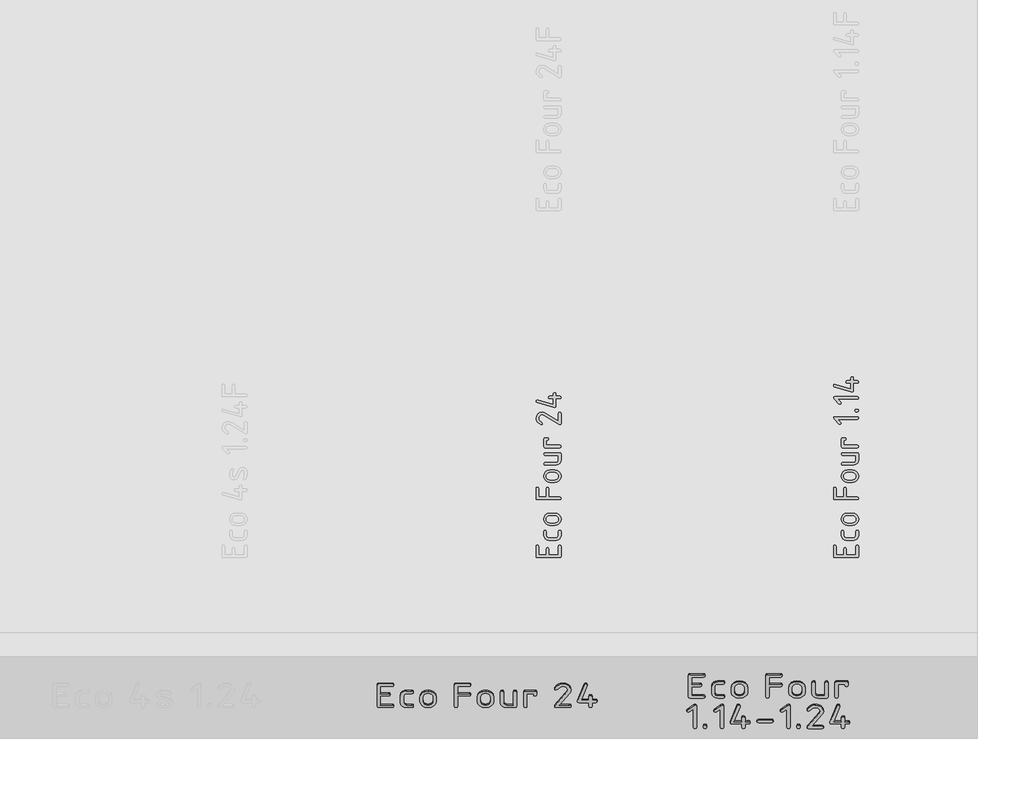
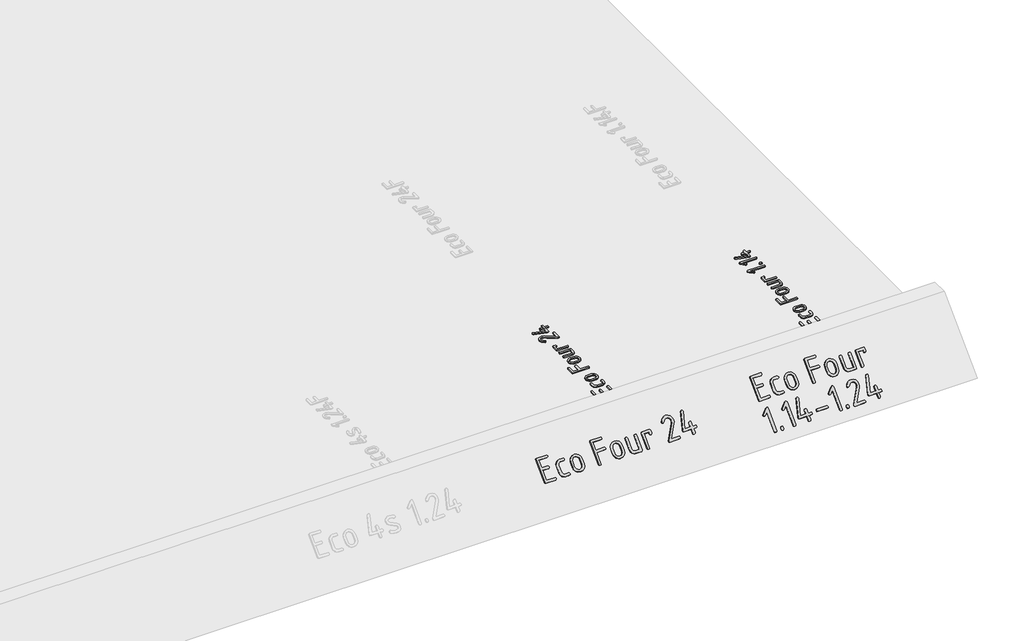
# One storey, part 7 of 37: 4 proxies.
"""IFC4 building model written with IfcOpenShell, lengths in millimetres."""

from ifc_helpers import new_model, si_unit, frame, origin, origin_with_axes, place, context, project, spatial, polyline, outline, extrude, element, save

model = new_model("IFC4")

# Units and contexts
model_context = context("Model", 3, world=origin())
ifc_project = project(units=[si_unit("LENGTHUNIT", "METRE", prefix="MILLI")], contexts=[model_context])

# Site, building, storey
site = spatial("IfcSite", under=ifc_project)
building = spatial("IfcBuilding", under=site)
storey = spatial("IfcBuildingStorey", under=building, Name="01_Стартовый вид_Площадка", Elevation=0.0)

# Proxies
placement = place(None, origin())
element("IfcBuildingElementProxy", 1, Name="200мм", ObjectType="200мм", at=placement, inside=storey, context=model_context, shape_type="SweptSolid", body=[
    extrude(outline(polyline([(7.9720216, 0.0), (179.416636, -58.0553192), (185.7484838, -62.8989575), (185.6722013, -70.971688), (159.9419745, -146.956264), (155.1111501, -153.2502709), (147.0426909, -153.1613748), (140.5802352, -148.3297495), (140.5674213, -140.3955688), (163.0173005, -74.0982694), (104.8936407, -54.4161836), (88.8506905, -101.7930208), (84.03268, -108.0491868), (75.968492, -107.9476769), (69.501765, -103.1286653), (69.4761372, -95.2323255), (85.5190874, -47.8554883), (11.2499666, -22.7061564), (-11.1999125, -89.0034557), (-16.0307369, -95.2974626), (-24.0991962, -95.2085664), (-30.5616518, -90.3769412), (-30.5744657, -82.4427605), (-4.8442389, -6.4581844), (0.0, 0.0), (7.9720216, 0.0)])), frame((21603.9208495, -17981.5780601, 150.0960147), z_axis=(0.0, -0.7071067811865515, 0.7071067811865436), x_axis=(-0.32073452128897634, 0.6697497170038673, 0.6697497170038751)), (0.0, 0.0, 1.0), 10.0),
    extrude(outline(polyline([(15.1508781, 0.0), (69.918334, 22.8458531), (80.4980469, 33.6657617), (80.467285, 48.8903842), (68.9008028, 76.6182523), (68.3843818, 84.4977287), (74.505091, 89.7492381), (82.5432932, 90.4040175), (87.7793513, 84.493304), (99.3458335, 56.7654358), (102.6619405, 41.3096075), (99.6902547, 25.914741), (91.2197, 12.7713241), (78.0392002, 4.0698443), (22.7801153, -18.9810883), (7.3232334, -22.2254877), (-7.9764678, -18.9976632), (-21.0073016, -10.2781335), (-29.6575818, 2.9525826), (-41.224064, 30.6804508), (-41.7404849, 38.5599271), (-35.6197759, 43.8114365), (-27.5815735, 44.4662159), (-22.3455154, 38.5555025), (-10.7790332, 10.8276343), (0.0, 0.0), (15.1508781, 0.0)])), frame((21767.4294396, -17903.0711746, 228.6029002), z_axis=(0.0, -0.7071067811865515, 0.7071067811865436), x_axis=(-0.384989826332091, -0.6526035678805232, -0.6526035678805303)), (0.0, 0.0, 1.0), 10.0),
    extrude(outline(polyline([(19.5277268, 0.0), (58.788553, -7.3971647), (76.977393, -14.5033742), (90.8173496, -28.1486772), (98.6171829, -45.8732873), (98.6856532, -65.2174178), (91.5847544, -83.4140341), (77.9948347, -97.0679287), (60.1996699, -104.6308688), (40.4830361, -104.5546222), (1.22221, -97.1574575), (-16.96663, -90.051248), (-30.8065866, -76.405945), (-38.6064199, -58.6813348), (-38.6748902, -39.3372043), (-31.5717163, -21.3442893), (-17.856617, -7.6733254), (0.0, 0.0), (19.5277268, 0.0)]), holes=[polyline([(5.5853838, -77.1644064), (44.8985577, -84.5714339), (56.5989581, -84.61445), (67.3060997, -80.1473936), (75.5187711, -72.161262), (79.7357612, -61.6470529), (79.6340604, -50.3191558), (74.8906592, -39.89196), (66.5432132, -31.8348128), (55.6293779, -27.6170622), (16.316204, -20.2100346), (4.5148066, -20.1276623), (-6.1812393, -24.5358276), (-14.3509513, -32.5097259), (-18.5733473, -43.1245526), (-18.4716465, -54.4524498), (-13.7282453, -64.8796457), (-5.3677123, -72.9392585), (5.5853838, -77.1644064)])]), frame((21864.0790237, -17961.6335257, 170.0405492), z_axis=(0.0, -0.7071067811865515, 0.7071067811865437), x_axis=(-0.18515314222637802, 0.6948806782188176, 0.6948806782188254)), (0.0, 0.0, 1.0), 10.0),
    extrude(outline(polyline([(7.9720216, 0.0), (179.416636, -58.0553192), (185.7484838, -62.8989575), (185.6722013, -70.971688), (159.9419745, -146.956264), (155.1111501, -153.2502709), (147.0426909, -153.1613748), (140.5802352, -148.3297495), (140.5674213, -140.3955688), (163.0173005, -74.0982693), (104.8936407, -54.4161835), (82.4437616, -120.7134829), (77.6129371, -127.0074898), (69.5444779, -126.9185936), (63.0820222, -122.0869683), (63.0692083, -114.1527876), (85.5190874, -47.8554882), (1.2599627, -19.3232978), (-4.9583623, -14.5181011), (-4.8442389, -6.4581844), (0.0, 0.0), (7.9720216, 0.0)])), frame((22070.9817122, -17981.5780601, 150.0960147), z_axis=(0.0, -0.7071067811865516, 0.7071067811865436), x_axis=(-0.3207345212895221, 0.6697497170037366, 0.6697497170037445)), (0.0, 0.0, 1.0), 10.0),
    extrude(outline(polyline([(19.5277268, -1e-07), (58.7885529, -7.3971648), (76.977393, -14.5033742), (90.8173496, -28.1486773), (98.6171829, -45.8732873), (98.6856532, -65.2174179), (91.5847543, -83.4140342), (77.9948347, -97.0679287), (60.1996699, -104.6308689), (40.4830361, -104.5546223), (1.22221, -97.1574576), (-16.96663, -90.0512481), (-30.8065866, -76.405945), (-38.6064199, -58.6813349), (-38.6748902, -39.3372044), (-31.5717163, -21.3442893), (-17.8566171, -7.6733255), (0.0, 0.0), (19.5277268, -1e-07)]), holes=[polyline([(5.5853838, -77.1644064), (44.8985577, -84.5714339), (56.5989581, -84.6144501), (67.3060997, -80.1473937), (75.5187711, -72.1612621), (79.7357612, -61.647053), (79.6340604, -50.3191558), (74.8906592, -39.8919601), (66.5432132, -31.8348129), (55.6293779, -27.6170623), (16.316204, -20.2100347), (4.5148066, -20.1276624), (-6.1812393, -24.5358276), (-14.3509513, -32.5097259), (-18.5733473, -43.1245527), (-18.4716465, -54.4524499), (-13.7282453, -64.8796458), (-5.3677123, -72.9392586), (5.5853838, -77.1644064)])]), frame((22211.8177681, -17961.6335257, 170.0405492), z_axis=(0.0, -0.7071067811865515, 0.7071067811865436), x_axis=(-0.1851531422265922, 0.694880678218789, 0.6948806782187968)), (0.0, 0.0, 1.0), 10.0),
    extrude(outline(polyline([(7.8963813, 1e-07), (121.2937941, -38.8098097), (127.5601634, -43.5725011), (127.5101015, -51.4095223), (111.5032111, -98.1796552), (103.8057301, -111.7461767), (91.4765408, -120.9968587), (76.511249, -124.9537748), (60.9054607, -122.6389988), (-24.1173995, -93.5402659), (-30.3578956, -88.7019762), (-30.2302141, -80.6381603), (-25.39024, -74.1871075), (-17.4938586, -74.1871074), (67.1762096, -103.1650987), (82.2515298, -102.3002328), (92.2362967, -91.3041201), (104.7416798, -54.7649537), (1.2728405, -19.3531584), (-4.9676556, -14.5148688), (-4.8399741, -6.4510528), (0.0, 0.0), (7.8963813, 1e-07)])), frame((22444.289482, -17886.281229, 245.3928458), z_axis=(0.0, -0.7071067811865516, 0.7071067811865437), x_axis=(0.3238068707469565, -0.6690101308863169, -0.6690101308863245)), (0.0, 0.0, 1.0), 10.0),
    extrude(outline(polyline([(119.8548062, 0.0), (127.3257557, -2.5569025), (129.8160723, -10.2276101), (129.8160723, -70.474626), (127.2591698, -77.9455756), (119.5884622, -80.4358922), (99.3463171, -80.4358922), (91.835416, -77.9455756), (89.3317822, -70.474626), (91.835416, -62.9637249), (99.3463171, -60.4600911), (109.3608521, -60.4600911), (109.3608521, -20.4552202), (0.0, -20.4552202), (-7.4709496, -17.8983177), (-9.9612661, -10.2276101), (-7.4709496, -2.5569025), (0.0, 0.0), (119.8548062, 0.0)])), frame((22487.7568251, -17976.3141343, 155.3599405), z_axis=(0.0, -0.7071067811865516, 0.7071067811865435), x_axis=(0.0, 0.7071067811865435, 0.7071067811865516)), (0.0, 0.0, 1.0), 10.0),
    extrude(outline(polyline([(156.7700866, 0.0), (133.704695, 23.0121228), (130.8281796, 29.9903359), (133.3318134, 37.5012371), (140.8427146, 40.0048709), (147.8209277, 37.0750867), (187.1333042, -2.0242145), (191.0751956, -10.2276101), (188.5582446, -17.8983177), (181.0073918, -20.4552203), (0.0, -20.4552203), (-7.5508528, -17.8983177), (-10.0678037, -10.2276101), (-7.5508528, -2.5569025), (0.0, 0.0), (156.7700866, 0.0)])), frame((21630.3421757, -18161.052232, -29.3781572), z_axis=(0.0, -0.7071067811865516, 0.7071067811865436), x_axis=(0.0, 0.7071067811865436, 0.7071067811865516)), (0.0, 0.0, 1.0), 10.0),
    extrude(outline(polyline([(10.2276102, 0.0), (17.8983178, -2.5569025), (20.4552203, -10.2276101), (17.8983178, -17.8983177), (10.2276102, -20.4552203), (0.0, -20.4552203), (-7.6707075, -17.8983177), (-10.2276101, -10.2276101), (-7.6707075, -2.5569025), (0.0, 0.0), (10.2276102, 0.0)])), frame((21691.7078365, -18160.9392318, -29.265157), z_axis=(0.0, -0.7071067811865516, 0.7071067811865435), x_axis=(0.0, 0.7071067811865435, 0.7071067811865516)), (0.0, 0.0, 1.0), 10.0),
    extrude(outline(polyline([(156.7700866, 0.0), (133.704695, 23.0121228), (130.8281796, 29.9903359), (133.3318134, 37.5012371), (140.8427146, 40.0048709), (147.8209277, 37.0750867), (187.1333042, -2.0242145), (191.0751956, -10.2276102), (188.5582446, -17.8983177), (181.0073918, -20.4552203), (0.0, -20.4552203), (-7.5508528, -17.8983177), (-10.0678037, -10.2276102), (-7.5508528, -2.5569026), (0.0, 0.0), (156.7700866, 0.0)])), frame((21793.9839378, -18161.052232, -29.3781572), z_axis=(0.0, -0.7071067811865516, 0.7071067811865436), x_axis=(0.0, 0.7071067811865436, 0.7071067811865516)), (0.0, 0.0, 1.0), 10.0),
    extrude(outline(polyline([(7.917185, 0.0), (10.3934109, -1.1623101), (130.7514683, -83.4504991), (134.8406101, -88.4913877), (134.6089903, -94.955685), (129.8713131, -101.2936443), (121.9920295, -101.306278), (119.4147331, -99.941827), (10.4776363, -25.3349921), (-4.3291842, -69.7554536), (24.1726819, -79.2560756), (30.4516834, -84.044288), (30.3885144, -92.1088674), (25.600302, -98.5984324), (17.7041733, -98.6616014), (-10.7976928, -89.1609793), (-17.1314408, -108.1622234), (-21.9196532, -114.4412249), (-29.9842326, -114.3780559), (-36.4737975, -109.5898434), (-36.5369666, -101.6937148), (-30.2032185, -82.6924708), (-59.3115073, -72.9897078), (-65.7800159, -68.1383264), (-65.7800159, -60.0526906), (-60.9286344, -53.584182), (-52.8429988, -53.5841821), (-23.7347099, -63.286945), (-4.750311, -6.333748), (0.0, 0.0), (7.917185, 0.0)])), frame((21855.9888242, -18137.472858, -5.7987831), z_axis=(0.0, -0.7071067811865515, 0.7071067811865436), x_axis=(-0.3162277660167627, 0.6708203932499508, 0.6708203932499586)), (0.0, 0.0, 1.0), 10.0),
    extrude(outline(polyline([(7.934191, 0.0), (83.6754056, -25.7842432), (89.9616024, -30.6252263), (89.8596757, -38.6935314), (85.0176197, -45.1481756), (77.0834286, -45.1481755), (1.3422141, -19.3639323), (-4.9439827, -14.5229492), (-4.8420559, -6.454644), (0.0, 0.0), (7.934191, 0.0)])), frame((22112.637916, -18130.2031787, 1.4708961), z_axis=(0.0, -0.7071067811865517, 0.7071067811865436), x_axis=(-0.9466499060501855, -0.227874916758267, -0.22787491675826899)), (0.0, 0.0, 1.0), 10.0),
    extrude(outline(polyline([(156.7700866, 0.0), (133.704695, 23.0121228), (130.8281796, 29.9903359), (133.3318134, 37.5012371), (140.8427146, 40.0048708), (147.8209277, 37.0750867), (187.1333042, -2.0242145), (191.0751956, -10.2276102), (188.5582446, -17.8983178), (181.0073918, -20.4552203), (0.0, -20.4552203), (-7.5508528, -17.8983178), (-10.0678037, -10.2276102), (-7.5508528, -2.5569026), (0.0, 0.0), (156.7700866, 0.0)])), frame((22196.2699363, -18161.052232, -29.3781572), z_axis=(0.0, -0.7071067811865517, 0.7071067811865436), x_axis=(0.0, 0.7071067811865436, 0.7071067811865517)), (0.0, 0.0, 1.0), 10.0),
    extrude(outline(polyline([(10.2276102, 0.0), (17.8983178, -2.5569026), (20.4552203, -10.2276102), (17.8983178, -17.8983178), (10.2276102, -20.4552203), (0.0, -20.4552203), (-7.6707075, -17.8983178), (-10.2276101, -10.2276102), (-7.6707075, -2.5569026), (0.0, 0.0), (10.2276102, 0.0)])), frame((22257.6355971, -18160.9392318, -29.265157), z_axis=(0.0, -0.7071067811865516, 0.7071067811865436), x_axis=(0.0, 0.7071067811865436, 0.7071067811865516)), (0.0, 0.0, 1.0), 10.0),
    extrude(outline(polyline([(14.6692355, -1e-07), (33.1062034, -6.6022305), (47.3681923, -19.9776427), (55.6930957, -37.6934159), (56.3188068, -57.3167297), (51.8407371, -71.1866426), (42.8424616, -84.4831553), (-35.1387131, -175.0883818), (26.2241519, -184.7023202), (33.2487616, -188.3909847), (34.5349086, -196.3567718), (30.8741353, -203.5475071), (23.0579835, -204.9110167), (-55.9874908, -192.526681), (-63.0203458, -188.8906433), (-64.3312285, -181.0827367), (-61.7484404, -175.6102614), (28.9539759, -70.2294251), (36.4734082, -54.5849108), (36.0907364, -42.8313549), (31.0839534, -32.2000358), (22.5293125, -24.1671007), (11.5030671, -20.2086965), (-5.5868318, -23.8935588), (-23.3858748, -40.1921121), (-32.6617347, -43.6454248), (-39.6945896, -40.0093871), (-41.0054723, -32.2014805), (-39.423307, -28.2976301), (-27.0462712, -14.148815), (-13.9051688, -4.7162717), (0.0, 0.0), (14.6692355, -1e-07)])), frame((22354.0488008, -18027.5472099, 104.1268649), z_axis=(0.0, -0.7071067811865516, 0.7071067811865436), x_axis=(0.9879481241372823, 0.1094497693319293, 0.10944976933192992)), (0.0, 0.0, 1.0), 10.0),
    extrude(outline(polyline([(7.917185, 0.0), (10.3934109, -1.1623101), (130.7514683, -83.4504991), (134.8406101, -88.4913877), (134.6089903, -94.955685), (129.8713131, -101.2936443), (121.9920295, -101.306278), (119.4147331, -99.941827), (10.4776363, -25.3349921), (-4.3291842, -69.7554535), (24.1726819, -79.2560755), (30.4516834, -84.044288), (30.3885144, -92.1088674), (25.600302, -98.5984324), (17.7041733, -98.6616014), (-10.7976928, -89.1609793), (-17.1314408, -108.1622233), (-21.9196532, -114.4412249), (-29.9842326, -114.3780558), (-36.4737975, -109.5898434), (-36.5369665, -101.6937147), (-30.2032185, -82.6924708), (-59.3115073, -72.9897078), (-65.7800159, -68.1383264), (-65.7800159, -60.0526906), (-60.9286344, -53.584182), (-52.8429987, -53.584182), (-23.7347099, -63.2869449), (-4.750311, -6.333748), (0.0, 0.0), (7.917185, 0.0)])), frame((22459.417822, -18137.472858, -5.7987831), z_axis=(0.0, -0.7071067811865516, 0.7071067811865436), x_axis=(-0.31622776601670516, 0.6708203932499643, 0.6708203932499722)), (0.0, 0.0, 1.0), 10.0),
])
element("IfcBuildingElementProxy", 2, Name="150 мм", ObjectType="150 мм", at=placement, inside=storey, context=model_context, shape_type="SweptSolid", body=[
    extrude(outline(polyline([(22622.6374214, -17138.8871108), (22486.8818775, -17138.8871108), (22481.2187379, -17136.9694339), (22479.3310247, -17131.2164032), (22479.3310247, -17071.0492905), (22481.2487016, -17065.4161146), (22487.0017323, -17063.5383893), (22492.754763, -17065.4161146), (22494.6724399, -17071.0492905), (22494.6724399, -17123.5456956), (22540.6966855, -17123.5456956), (22540.6966855, -17086.0311412), (22542.6143624, -17080.427929), (22548.3673931, -17078.5601916), (22554.1204238, -17080.427929), (22556.0381007, -17086.0311412), (22556.0381007, -17123.5456956), (22614.846859, -17123.5456956), (22614.846859, -17071.0492905), (22616.7645359, -17065.4161146), (22622.5175666, -17063.5383893), (22628.2705973, -17065.4161146), (22630.1882742, -17071.0492905), (22630.1882742, -17131.2164032), (22628.300561, -17136.9694339), (22622.6374214, -17138.8871108)])), origin_with_axes(), (0.0, 0.0, 1.0), 10.0),
    extrude(outline(polyline([(22555.5187299, -17018.7126917), (22600.0248146, -17018.7126917), (22610.4721585, -17014.2780639), (22614.846859, -17003.730841), (22614.846859, -16981.1981374), (22616.7645359, -16975.5949252), (22622.5175666, -16973.7271878), (22628.2705973, -16975.5949252), (22630.1882742, -16981.1981374), (22630.1882742, -17003.730841), (22628.0208998, -17015.3867209), (22621.5187765, -17025.1848513), (22611.8604767, -17031.836793), (22600.2245726, -17034.0541069), (22555.3189719, -17034.0541069), (22543.6830678, -17031.836793), (22534.024768, -17025.1848513), (22527.5226447, -17015.3867209), (22525.3552703, -17003.730841), (22525.3552703, -16981.1981374), (22527.2729472, -16975.5949252), (22533.0259779, -16973.7271878), (22538.7790086, -16975.5949252), (22540.6966855, -16981.1981374), (22540.6966855, -17003.730841), (22545.0314343, -17014.3379913), (22555.5187299, -17018.7126917)])), origin_with_axes(), (0.0, 0.0, 1.0), 10.0),
    extrude(outline(polyline([(22592.753623, -16944.5625183), (22562.7899215, -16944.5625183), (22548.3973568, -16941.8508033), (22536.3020093, -16933.7156583), (22528.0919551, -16921.7351716), (22525.3552703, -16907.4874315), (22528.0619914, -16893.089873), (22536.1821545, -16881.13935), (22548.2475383, -16873.0940961), (22562.7899215, -16870.4123448), (22592.753623, -16870.4123448), (22607.1461877, -16873.1240598), (22619.2415352, -16881.2592048), (22627.4515894, -16893.2396915), (22630.1882742, -16907.4874315), (22627.4515894, -16921.7351716), (22619.2415352, -16933.7156583), (22607.1461877, -16941.8508033), (22592.753623, -16944.5625183)]), holes=[polyline([(22592.3141554, -16885.75376), (22562.3105022, -16885.75376), (22553.6809562, -16887.3468302), (22546.4097646, -16892.1260406), (22541.4657539, -16899.1525286), (22539.8177503, -16907.4874315), (22541.4657539, -16915.8223345), (22546.4097646, -16922.8488225), (22553.6809562, -16927.6280329), (22562.3105022, -16929.2211031), (22592.3141554, -16929.2211031), (22601.0236047, -16927.6430148), (22608.2947962, -16922.90875), (22613.2088433, -16915.8972438), (22614.846859, -16907.4874315), (22613.1988554, -16899.1525286), (22608.2548446, -16892.1260406), (22600.9736651, -16887.3468302), (22592.3141554, -16885.75376)])]), origin_with_axes(), (0.0, 0.0, 1.0), 10.0),
    extrude(outline(polyline([(22622.6374214, -16788.5914638), (22486.8818775, -16788.5914638), (22481.2187379, -16786.6737869), (22479.3310247, -16780.9207562), (22479.3310247, -16720.7536434), (22481.2487016, -16715.1204675), (22487.0017323, -16713.2427423), (22492.754763, -16715.1204675), (22494.6724399, -16720.7536434), (22494.6724399, -16773.2500486), (22540.6966855, -16773.2500486), (22540.6966855, -16720.7536434), (22542.6143624, -16715.1204675), (22548.3673931, -16713.2427423), (22554.1204238, -16715.1204675), (22556.0381007, -16720.7536434), (22556.0381007, -16773.2500486), (22622.7572762, -16773.2500486), (22628.3305247, -16775.1677255), (22630.1882742, -16780.9207562), (22628.300561, -16786.6737869), (22622.6374214, -16788.5914638)])), origin_with_axes(), (0.0, 0.0, 1.0), 10.0),
    extrude(outline(polyline([(22592.753623, -16683.7584599), (22562.7899215, -16683.7584599), (22548.3973568, -16681.0467449), (22536.3020093, -16672.9116), (22528.0919551, -16660.9311133), (22525.3552703, -16646.6833732), (22528.0619914, -16632.2858146), (22536.1821545, -16620.3352916), (22548.2475383, -16612.2900378), (22562.7899215, -16609.6082865), (22592.753623, -16609.6082865), (22607.1461877, -16612.3200015), (22619.2415352, -16620.4551464), (22627.4515894, -16632.4356331), (22630.1882742, -16646.6833732), (22627.4515894, -16660.9311133), (22619.2415352, -16672.9116), (22607.1461877, -16681.0467449), (22592.753623, -16683.7584599)]), holes=[polyline([(22592.3141554, -16624.9497017), (22562.3105022, -16624.9497017), (22553.6809562, -16626.5427718), (22546.4097646, -16631.3219822), (22541.4657539, -16638.3484702), (22539.8177503, -16646.6833732), (22541.4657539, -16655.0182762), (22546.4097646, -16662.0447642), (22553.6809562, -16666.8239746), (22562.3105022, -16668.4170447), (22592.3141554, -16668.4170447), (22601.0236047, -16666.8389564), (22608.2947962, -16662.1046916), (22613.2088433, -16655.0931854), (22614.846859, -16646.6833732), (22613.1988554, -16638.3484702), (22608.2548446, -16631.3219822), (22600.9736651, -16626.5427718), (22592.3141554, -16624.9497017)])]), origin_with_axes(), (0.0, 0.0, 1.0), 10.0),
    extrude(outline(polyline([(22532.8262199, -16504.7752826), (22622.7173246, -16504.7752826), (22628.3205368, -16506.6330321), (22630.1882742, -16512.2062806), (22630.1882742, -16549.2813673), (22628.0208998, -16560.7774408), (22621.5187765, -16570.3358616), (22611.8604767, -16576.7780575), (22600.2245726, -16578.9254561), (22532.8262199, -16578.9254561), (22527.2230077, -16577.0077792), (22525.3552703, -16571.2547485), (22527.2230077, -16565.5017178), (22532.8262199, -16563.5840409), (22599.9449114, -16563.5840409), (22610.4322069, -16559.3092194), (22614.846859, -16549.0816093), (22614.846859, -16520.1166978), (22532.8262199, -16520.1166978), (22527.2230077, -16518.1990209), (22525.3552703, -16512.4459902), (22527.2230077, -16506.6929595), (22532.8262199, -16504.7752826)])), origin_with_axes(), (0.0, 0.0, 1.0), 10.0),
    extrude(outline(polyline([(22532.8262199, -16474.0924522), (22527.2230077, -16472.1747753), (22525.3552703, -16466.4217446), (22525.3552703, -16421.2364827), (22527.2729472, -16415.6332705), (22533.0259779, -16413.7655331), (22548.2075867, -16413.7655331), (22553.8407626, -16415.6332705), (22555.7184879, -16421.2364827), (22553.8407626, -16426.8696586), (22548.2075867, -16428.7473839), (22540.6966855, -16428.7473839), (22540.6966855, -16458.751037), (22622.7173246, -16458.751037), (22628.3205368, -16460.6687139), (22630.1882742, -16466.4217446), (22628.3205368, -16472.1747753), (22622.7173246, -16474.0924522), (22532.8262199, -16474.0924522)])), origin_with_axes(), (0.0, 0.0, 1.0), 10.0),
    extrude(outline(polyline([(22505.0598565, -16302.7799825), (22522.3589002, -16320.0390746), (22524.5162867, -16325.2727345), (22522.6385614, -16330.9059104), (22517.0053855, -16332.7836357), (22511.7717256, -16330.5862976), (22482.2874433, -16301.2618216), (22479.3310247, -16295.1092749), (22481.2187379, -16289.3562442), (22486.8818775, -16287.4385673), (22622.6374214, -16287.4385673), (22628.300561, -16289.3562442), (22630.1882742, -16295.1092749), (22628.300561, -16300.8623056), (22622.6374214, -16302.7799825), (22505.0598565, -16302.7799825)])), origin_with_axes(), (0.0, 0.0, 1.0), 10.0),
    extrude(outline(polyline([(22614.846859, -16256.7557369), (22609.0938283, -16254.83806), (22607.1761514, -16249.0850293), (22609.0938283, -16243.3319986), (22614.846859, -16241.4143217), (22622.5175666, -16241.4143217), (22628.2705973, -16243.3319986), (22630.1882742, -16249.0850293), (22628.2705973, -16254.83806), (22622.5175666, -16256.7557369), (22614.846859, -16256.7557369)])), origin_with_axes(), (0.0, 0.0, 1.0), 10.0),
    extrude(outline(polyline([(22505.0598565, -16180.0486609), (22522.3589002, -16197.307753), (22524.5162867, -16202.5414129), (22522.6385614, -16208.1745888), (22517.0053855, -16210.0523141), (22511.7717256, -16207.854976), (22482.2874433, -16178.5305001), (22479.3310247, -16172.3779533), (22481.2187379, -16166.6249226), (22486.8818775, -16164.7072457), (22622.6374214, -16164.7072457), (22628.300561, -16166.6249226), (22630.1882742, -16172.3779533), (22628.300561, -16178.130984), (22622.6374214, -16180.0486609), (22505.0598565, -16180.0486609)])), origin_with_axes(), (0.0, 0.0, 1.0), 10.0),
    extrude(outline(polyline([(22591.9945426, -16135.4227214), (22589.9570109, -16135.1830118), (22484.8043942, -16105.1793586), (22480.6993671, -16102.5625287), (22479.3310247, -16097.9081671), (22481.1987621, -16092.2749912), (22486.8019743, -16090.3972659), (22488.9593608, -16090.7568303), (22584.1640286, -16118.0038229), (22584.1640286, -16082.8863647), (22561.631325, -16082.8863647), (22556.0281128, -16080.9686878), (22554.1603754, -16075.2156571), (22556.0281128, -16069.4626264), (22561.631325, -16067.5449495), (22584.1640286, -16067.5449495), (22584.1640286, -16052.5231471), (22586.0817055, -16046.9199349), (22591.8347362, -16045.0521975), (22597.5877669, -16046.9199349), (22599.5054438, -16052.5231471), (22599.5054438, -16067.5449495), (22622.5175666, -16067.5449495), (22628.2705973, -16069.4626264), (22630.1882742, -16075.2156571), (22628.2705973, -16080.9686878), (22622.5175666, -16082.8863647), (22599.5054438, -16082.8863647), (22599.5054438, -16127.9118202), (22597.6277185, -16133.5449961), (22591.9945426, -16135.4227214)])), origin_with_axes(), (0.0, 0.0, 1.0), 10.0),
])
element("IfcBuildingElementProxy", 3, Name="200мм", ObjectType="200мм", at=placement, inside=storey, context=model_context, shape_type="SweptSolid", body=[
    extrude(outline(polyline([(7.9720217, 0.0), (179.4166361, -58.0553191), (185.7484839, -62.8989575), (185.6722013, -70.971688), (159.9419745, -146.9562639), (155.1111501, -153.2502708), (147.0426909, -153.1613748), (140.5802352, -148.3297494), (140.5674214, -140.3955687), (163.0173005, -74.0982693), (104.8936407, -54.4161835), (88.8506906, -101.7930207), (84.03268, -108.0491867), (75.968492, -107.9476769), (69.501765, -103.1286652), (69.4761373, -95.2323254), (85.5190874, -47.8554882), (11.2499667, -22.7061563), (-11.1999125, -89.0034556), (-16.0307369, -95.2974625), (-24.0991961, -95.2085665), (-30.5616518, -90.3769411), (-30.5744656, -82.4427604), (-4.8442389, -6.4581844), (0.0, 0.0), (7.9720217, 0.0)])), frame((19719.8238672, -18038.1466026, 93.5274722), z_axis=(0.0, -0.7071067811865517, 0.7071067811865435), x_axis=(-0.3207345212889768, 0.6697497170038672, 0.6697497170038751)), (0.0, 0.0, 1.0), 10.0),
    extrude(outline(polyline([(15.150878, 0.0), (69.918334, 22.8458531), (80.4980469, 33.6657617), (80.467285, 48.8903841), (68.9008028, 76.6182523), (68.3843818, 84.4977287), (74.505091, 89.749238), (82.5432932, 90.4040175), (87.7793513, 84.493304), (99.3458335, 56.7654357), (102.6619405, 41.3096073), (99.6902548, 25.9147409), (91.2197, 12.7713241), (78.0392002, 4.0698442), (22.7801153, -18.9810884), (7.3232334, -22.2254877), (-7.9764677, -18.9976633), (-21.0073016, -10.2781337), (-29.6575818, 2.9525825), (-41.224064, 30.6804508), (-41.7404849, 38.5599271), (-35.6197758, 43.8114364), (-27.5815735, 44.4662159), (-22.3455154, 38.5555025), (-10.7790332, 10.8276342), (0.0, 0.0), (15.150878, 0.0)])), frame((19883.3324573, -17959.6397171, 172.0343577), z_axis=(0.0, -0.7071067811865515, 0.7071067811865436), x_axis=(-0.384989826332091, -0.6526035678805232, -0.6526035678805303)), (0.0, 0.0, 1.0), 10.0),
    extrude(outline(polyline([(19.5277268, 0.0), (58.788553, -7.3971647), (76.977393, -14.5033742), (90.8173496, -28.1486773), (98.6171829, -45.8732873), (98.6856532, -65.2174179), (91.5847543, -83.4140342), (77.9948347, -97.0679287), (60.1996699, -104.6308689), (40.4830361, -104.5546222), (1.22221, -97.1574575), (-16.96663, -90.0512481), (-30.8065866, -76.405945), (-38.6064199, -58.6813349), (-38.6748902, -39.3372044), (-31.5717163, -21.3442893), (-17.8566171, -7.6733255), (0.0, 0.0), (19.5277268, 0.0)]), holes=[polyline([(5.5853838, -77.1644064), (44.8985577, -84.5714339), (56.5989581, -84.6144501), (67.3060997, -80.1473936), (75.5187711, -72.1612621), (79.7357612, -61.647053), (79.6340604, -50.3191558), (74.8906592, -39.89196), (66.5432132, -31.8348129), (55.6293779, -27.6170623), (16.316204, -20.2100347), (4.5148066, -20.1276624), (-6.1812393, -24.5358276), (-14.3509513, -32.5097259), (-18.5733473, -43.1245527), (-18.4716465, -54.4524499), (-13.7282453, -64.8796457), (-5.3677123, -72.9392586), (5.5853838, -77.1644064)])]), frame((19979.9820413, -18018.2020682, 113.4720067), z_axis=(0.0, -0.7071067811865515, 0.7071067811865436), x_axis=(-0.1851531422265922, 0.694880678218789, 0.6948806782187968)), (0.0, 0.0, 1.0), 10.0),
    extrude(outline(polyline([(7.9720216, 0.0), (179.4166361, -58.0553192), (185.7484839, -62.8989575), (185.6722013, -70.971688), (159.9419745, -146.956264), (155.1111501, -153.2502709), (147.0426909, -153.1613748), (140.5802352, -148.3297495), (140.5674213, -140.3955688), (163.0173005, -74.0982694), (104.8936407, -54.4161836), (82.4437616, -120.7134829), (77.6129371, -127.0074898), (69.5444779, -126.9185936), (63.0820222, -122.0869683), (63.0692083, -114.1527876), (85.5190874, -47.8554883), (1.2599627, -19.3232979), (-4.9583623, -14.5181011), (-4.8442389, -6.4581844), (0.0, 0.0), (7.9720216, 0.0)])), frame((20186.8847298, -18038.1466026, 93.5274722), z_axis=(0.0, -0.7071067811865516, 0.7071067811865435), x_axis=(-0.32073452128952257, 0.6697497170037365, 0.6697497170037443)), (0.0, 0.0, 1.0), 10.0),
    extrude(outline(polyline([(19.5277268, 0.0), (58.788553, -7.3971647), (76.977393, -14.5033742), (90.8173496, -28.1486772), (98.6171829, -45.8732873), (98.6856532, -65.2174179), (91.5847544, -83.4140341), (77.9948347, -97.0679287), (60.1996699, -104.6308688), (40.4830361, -104.5546222), (1.22221, -97.1574575), (-16.96663, -90.051248), (-30.8065866, -76.405945), (-38.6064199, -58.6813348), (-38.6748902, -39.3372044), (-31.5717163, -21.3442893), (-17.856617, -7.6733254), (0.0, 0.0), (19.5277268, 0.0)]), holes=[polyline([(5.5853838, -77.1644064), (44.8985577, -84.5714339), (56.5989581, -84.61445), (67.3060997, -80.1473936), (75.5187711, -72.161262), (79.7357612, -61.647053), (79.6340604, -50.3191558), (74.8906592, -39.89196), (66.5432132, -31.8348129), (55.6293779, -27.6170622), (16.316204, -20.2100346), (4.5148066, -20.1276624), (-6.1812393, -24.5358276), (-14.3509513, -32.5097259), (-18.5733473, -43.1245527), (-18.4716465, -54.4524498), (-13.7282453, -64.8796457), (-5.3677123, -72.9392585), (5.5853838, -77.1644064)])]), frame((20327.7207858, -18018.2020682, 113.4720067), z_axis=(0.0, -0.7071067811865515, 0.7071067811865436), x_axis=(-0.1851531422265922, 0.694880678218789, 0.6948806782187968)), (0.0, 0.0, 1.0), 10.0),
    extrude(outline(polyline([(7.8963814, 0.0), (121.2937942, -38.8098098), (127.5601635, -43.5725011), (127.5101015, -51.4095223), (111.5032111, -98.1796553), (103.80573, -111.7461768), (91.4765408, -120.9968588), (76.5112491, -124.9537749), (60.9054607, -122.6389989), (-24.1173995, -93.540266), (-30.3578956, -88.7019763), (-30.230214, -80.6381603), (-25.39024, -74.1871075), (-17.4938586, -74.1871075), (67.1762097, -103.1650988), (82.2515298, -102.3002329), (92.2362967, -91.3041202), (104.7416799, -54.7649538), (1.2728405, -19.3531585), (-4.9676556, -14.5148688), (-4.8399741, -6.4510528), (0.0, 0.0), (7.8963814, 0.0)])), frame((20560.1924997, -17942.8497715, 188.8243034), z_axis=(0.0, -0.7071067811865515, 0.7071067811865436), x_axis=(0.3238068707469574, -0.6690101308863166, -0.6690101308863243)), (0.0, 0.0, 1.0), 10.0),
    extrude(outline(polyline([(119.8548062, 0.0), (127.3257558, -2.5569025), (129.8160723, -10.2276101), (129.8160723, -70.4746261), (127.2591698, -77.9455757), (119.5884622, -80.4358922), (99.3463171, -80.4358922), (91.835416, -77.9455757), (89.3317822, -70.4746261), (91.835416, -62.9637249), (99.3463171, -60.4600912), (109.3608521, -60.4600912), (109.3608521, -20.4552203), (0.0, -20.4552203), (-7.4709496, -17.8983177), (-9.9612661, -10.2276101), (-7.4709496, -2.5569025), (0.0, 0.0), (119.8548062, 0.0)])), frame((20603.6598427, -18032.8826768, 98.791398), z_axis=(0.0, -0.7071067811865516, 0.7071067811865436), x_axis=(0.0, 0.7071067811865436, 0.7071067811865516)), (0.0, 0.0, 1.0), 10.0),
    extrude(outline(polyline([(14.6692354, 0.0), (33.1062033, -6.6022305), (47.3681923, -19.9776427), (55.6930956, -37.6934159), (56.3188067, -57.3167297), (51.840737, -71.1866425), (42.8424616, -84.4831553), (-35.1387131, -175.0883818), (26.2241518, -184.7023202), (33.2487615, -188.3909847), (34.5349086, -196.3567717), (30.8741352, -203.5475071), (23.0579834, -204.9110166), (-55.9874908, -192.5266809), (-63.0203458, -188.8906432), (-64.3312286, -181.0827367), (-61.7484405, -175.6102613), (28.9539758, -70.2294251), (36.4734082, -54.5849108), (36.0907364, -42.8313549), (31.0839533, -32.2000358), (22.5293124, -24.1671006), (11.503067, -20.2086964), (-5.5868318, -23.8935588), (-23.3858749, -40.1921121), (-32.6617347, -43.6454248), (-39.6945896, -40.0093871), (-41.0054724, -32.2014805), (-39.423307, -28.2976301), (-27.0462713, -14.148815), (-13.9051689, -4.7162716), (0.0, 0.0), (14.6692354, 0.0)])), frame((20826.2135714, -17899.3023213, 232.3717535), z_axis=(0.0, -0.7071067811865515, 0.7071067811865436), x_axis=(0.9879481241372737, 0.10944976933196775, 0.10944976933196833)), (0.0, 0.0, 1.0), 10.0),
    extrude(outline(polyline([(7.9171849, 1e-07), (10.393411, -1.16231), (130.7514683, -83.450499), (134.8406101, -88.4913876), (134.6089903, -94.9556849), (129.8713131, -101.2936441), (121.9920295, -101.306278), (119.4147331, -99.9418269), (10.4776363, -25.3349919), (-4.3291842, -69.7554535), (24.1726819, -79.2560755), (30.4516834, -84.0442879), (30.3885143, -92.1088673), (25.6003019, -98.5984322), (17.7041733, -98.6616013), (-10.7976928, -89.1609792), (-17.1314409, -108.1622233), (-21.9196533, -114.4412248), (-29.9842326, -114.3780558), (-36.4737976, -109.5898434), (-36.5369666, -101.6937147), (-30.2032186, -82.6924706), (-59.3115073, -72.9897077), (-65.7800159, -68.1383263), (-65.7800159, -60.0526905), (-60.9286345, -53.5841819), (-52.8429987, -53.584182), (-23.73471, -63.2869449), (-4.750311, -6.333748), (0.0, 0.0), (7.9171849, 1e-07)])), frame((20931.5825926, -18009.2279693, 122.4461055), z_axis=(0.0, -0.7071067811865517, 0.7071067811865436), x_axis=(-0.3162277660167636, 0.6708203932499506, 0.6708203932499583)), (0.0, 0.0, 1.0), 10.0),
])
element("IfcBuildingElementProxy", 4, Name="150 мм", ObjectType="150 мм", at=placement, inside=storey, context=model_context, shape_type="SweptSolid", body=[
    extrude(outline(polyline([(20822.6374214, -17138.8871108), (20686.8818775, -17138.8871108), (20681.2187379, -17136.9694339), (20679.3310247, -17131.2164032), (20679.3310247, -17071.0492905), (20681.2487016, -17065.4161146), (20687.0017323, -17063.5383893), (20692.754763, -17065.4161146), (20694.6724399, -17071.0492905), (20694.6724399, -17123.5456956), (20740.6966855, -17123.5456956), (20740.6966855, -17086.0311412), (20742.6143624, -17080.427929), (20748.3673931, -17078.5601916), (20754.1204238, -17080.427929), (20756.0381007, -17086.0311412), (20756.0381007, -17123.5456956), (20814.846859, -17123.5456956), (20814.846859, -17071.0492905), (20816.7645359, -17065.4161146), (20822.5175666, -17063.5383893), (20828.2705973, -17065.4161146), (20830.1882742, -17071.0492905), (20830.1882742, -17131.2164032), (20828.300561, -17136.9694339), (20822.6374214, -17138.8871108)])), origin_with_axes(), (0.0, 0.0, 1.0), 10.0),
    extrude(outline(polyline([(20755.5187299, -17018.7126917), (20800.0248146, -17018.7126917), (20810.4721585, -17014.2780639), (20814.846859, -17003.730841), (20814.846859, -16981.1981374), (20816.7645359, -16975.5949252), (20822.5175666, -16973.7271878), (20828.2705973, -16975.5949252), (20830.1882742, -16981.1981374), (20830.1882742, -17003.730841), (20828.0208998, -17015.3867209), (20821.5187765, -17025.1848513), (20811.8604767, -17031.836793), (20800.2245726, -17034.0541069), (20755.3189719, -17034.0541069), (20743.6830678, -17031.836793), (20734.024768, -17025.1848513), (20727.5226447, -17015.3867209), (20725.3552703, -17003.730841), (20725.3552703, -16981.1981374), (20727.2729472, -16975.5949252), (20733.0259779, -16973.7271878), (20738.7790086, -16975.5949252), (20740.6966855, -16981.1981374), (20740.6966855, -17003.730841), (20745.0314343, -17014.3379913), (20755.5187299, -17018.7126917)])), origin_with_axes(), (0.0, 0.0, 1.0), 10.0),
    extrude(outline(polyline([(20792.753623, -16944.5625183), (20762.7899215, -16944.5625183), (20748.3973568, -16941.8508033), (20736.3020093, -16933.7156583), (20728.0919551, -16921.7351716), (20725.3552703, -16907.4874315), (20728.0619914, -16893.089873), (20736.1821545, -16881.13935), (20748.2475383, -16873.0940961), (20762.7899215, -16870.4123448), (20792.753623, -16870.4123448), (20807.1461877, -16873.1240598), (20819.2415352, -16881.2592048), (20827.4515894, -16893.2396915), (20830.1882742, -16907.4874315), (20827.4515894, -16921.7351716), (20819.2415352, -16933.7156583), (20807.1461877, -16941.8508033), (20792.753623, -16944.5625183)]), holes=[polyline([(20792.3141554, -16885.75376), (20762.3105022, -16885.75376), (20753.6809562, -16887.3468302), (20746.4097646, -16892.1260406), (20741.4657539, -16899.1525286), (20739.8177503, -16907.4874315), (20741.4657539, -16915.8223345), (20746.4097646, -16922.8488225), (20753.6809562, -16927.6280329), (20762.3105022, -16929.2211031), (20792.3141554, -16929.2211031), (20801.0236047, -16927.6430148), (20808.2947962, -16922.90875), (20813.2088433, -16915.8972438), (20814.846859, -16907.4874315), (20813.1988554, -16899.1525286), (20808.2548446, -16892.1260406), (20800.9736651, -16887.3468302), (20792.3141554, -16885.75376)])]), origin_with_axes(), (0.0, 0.0, 1.0), 10.0),
    extrude(outline(polyline([(20822.6374214, -16788.5914638), (20686.8818775, -16788.5914638), (20681.2187379, -16786.6737869), (20679.3310247, -16780.9207562), (20679.3310247, -16720.7536434), (20681.2487016, -16715.1204675), (20687.0017323, -16713.2427423), (20692.754763, -16715.1204675), (20694.6724399, -16720.7536434), (20694.6724399, -16773.2500486), (20740.6966855, -16773.2500486), (20740.6966855, -16720.7536434), (20742.6143624, -16715.1204675), (20748.3673931, -16713.2427423), (20754.1204238, -16715.1204675), (20756.0381007, -16720.7536434), (20756.0381007, -16773.2500486), (20822.7572762, -16773.2500486), (20828.3305247, -16775.1677255), (20830.1882742, -16780.9207562), (20828.300561, -16786.6737869), (20822.6374214, -16788.5914638)])), origin_with_axes(), (0.0, 0.0, 1.0), 10.0),
    extrude(outline(polyline([(20792.753623, -16683.7584599), (20762.7899215, -16683.7584599), (20748.3973568, -16681.0467449), (20736.3020093, -16672.9116), (20728.0919551, -16660.9311133), (20725.3552703, -16646.6833732), (20728.0619914, -16632.2858146), (20736.1821545, -16620.3352916), (20748.2475383, -16612.2900378), (20762.7899215, -16609.6082865), (20792.753623, -16609.6082865), (20807.1461877, -16612.3200015), (20819.2415352, -16620.4551464), (20827.4515894, -16632.4356331), (20830.1882742, -16646.6833732), (20827.4515894, -16660.9311133), (20819.2415352, -16672.9116), (20807.1461877, -16681.0467449), (20792.753623, -16683.7584599)]), holes=[polyline([(20792.3141554, -16624.9497017), (20762.3105022, -16624.9497017), (20753.6809562, -16626.5427718), (20746.4097646, -16631.3219822), (20741.4657539, -16638.3484702), (20739.8177503, -16646.6833732), (20741.4657539, -16655.0182762), (20746.4097646, -16662.0447642), (20753.6809562, -16666.8239746), (20762.3105022, -16668.4170447), (20792.3141554, -16668.4170447), (20801.0236047, -16666.8389564), (20808.2947962, -16662.1046916), (20813.2088433, -16655.0931854), (20814.846859, -16646.6833732), (20813.1988554, -16638.3484702), (20808.2548446, -16631.3219822), (20800.9736651, -16626.5427718), (20792.3141554, -16624.9497017)])]), origin_with_axes(), (0.0, 0.0, 1.0), 10.0),
    extrude(outline(polyline([(20732.8262199, -16504.7752826), (20822.7173246, -16504.7752826), (20828.3205368, -16506.6330321), (20830.1882742, -16512.2062806), (20830.1882742, -16549.2813673), (20828.0208998, -16560.7774408), (20821.5187765, -16570.3358616), (20811.8604767, -16576.7780575), (20800.2245726, -16578.9254561), (20732.8262199, -16578.9254561), (20727.2230077, -16577.0077792), (20725.3552703, -16571.2547485), (20727.2230077, -16565.5017178), (20732.8262199, -16563.5840409), (20799.9449114, -16563.5840409), (20810.4322069, -16559.3092194), (20814.846859, -16549.0816093), (20814.846859, -16520.1166978), (20732.8262199, -16520.1166978), (20727.2230077, -16518.1990209), (20725.3552703, -16512.4459902), (20727.2230077, -16506.6929595), (20732.8262199, -16504.7752826)])), origin_with_axes(), (0.0, 0.0, 1.0), 10.0),
    extrude(outline(polyline([(20732.8262199, -16474.0924522), (20727.2230077, -16472.1747753), (20725.3552703, -16466.4217446), (20725.3552703, -16421.2364827), (20727.2729472, -16415.6332705), (20733.0259779, -16413.7655331), (20748.2075867, -16413.7655331), (20753.8407626, -16415.6332705), (20755.7184879, -16421.2364827), (20753.8407626, -16426.8696586), (20748.2075867, -16428.7473839), (20740.6966855, -16428.7473839), (20740.6966855, -16458.751037), (20822.7173246, -16458.751037), (20828.3205368, -16460.6687139), (20830.1882742, -16466.4217446), (20828.3205368, -16472.1747753), (20822.7173246, -16474.0924522), (20732.8262199, -16474.0924522)])), origin_with_axes(), (0.0, 0.0, 1.0), 10.0),
    extrude(outline(polyline([(20679.3310247, -16296.307823), (20682.0826913, -16281.8803007), (20690.3376911, -16269.7599834), (20702.49796, -16261.5349473), (20716.9654339, -16258.7932686), (20727.7623543, -16260.5011996), (20738.6591538, -16265.6249926), (20814.846859, -16312.8877378), (20814.846859, -16266.3041698), (20816.7645359, -16260.6709939), (20822.5175666, -16258.7932686), (20828.2705973, -16260.6709939), (20830.1882742, -16266.3041698), (20830.1882742, -16326.3114761), (20828.3105489, -16331.944652), (20822.677373, -16333.8223773), (20818.3226484, -16332.5439261), (20729.7099949, -16277.5705216), (20717.2450951, -16273.815071), (20708.5805914, -16275.4630746), (20701.2844301, -16280.4070853), (20696.3254375, -16287.6782769), (20694.6724399, -16296.307823), (20699.386729, -16308.5430011), (20713.5295961, -16319.8393166), (20717.1651919, -16326.3114761), (20715.2874666, -16331.944652), (20709.6542907, -16333.8223773), (20706.5780173, -16333.1032485), (20686.1427729, -16316.9328375), (20681.0339618, -16307.1771557), (20679.3310247, -16296.307823)])), origin_with_axes(), (0.0, 0.0, 1.0), 10.0),
    extrude(outline(polyline([(20791.9945426, -16230.0281151), (20789.9570109, -16229.7884055), (20684.8043942, -16199.7847524), (20680.6993671, -16197.1679224), (20679.3310247, -16192.5135608), (20681.1987621, -16186.8803849), (20686.8019743, -16185.0026596), (20688.9593608, -16185.362224), (20784.1640286, -16212.6092166), (20784.1640286, -16177.4917584), (20761.631325, -16177.4917584), (20756.0281128, -16175.5740815), (20754.1603754, -16169.8210508), (20756.0281128, -16164.0680201), (20761.631325, -16162.1503432), (20784.1640286, -16162.1503432), (20784.1640286, -16147.1285408), (20786.0817055, -16141.5253286), (20791.8347362, -16139.6575912), (20797.5877669, -16141.5253286), (20799.5054438, -16147.1285408), (20799.5054438, -16162.1503432), (20822.5175666, -16162.1503432), (20828.2705973, -16164.0680201), (20830.1882742, -16169.8210508), (20828.2705973, -16175.5740815), (20822.5175666, -16177.4917584), (20799.5054438, -16177.4917584), (20799.5054438, -16222.5172139), (20797.6277185, -16228.1503898), (20791.9945426, -16230.0281151)])), origin_with_axes(), (0.0, 0.0, 1.0), 10.0),
])

save(model, "model.ifc")
